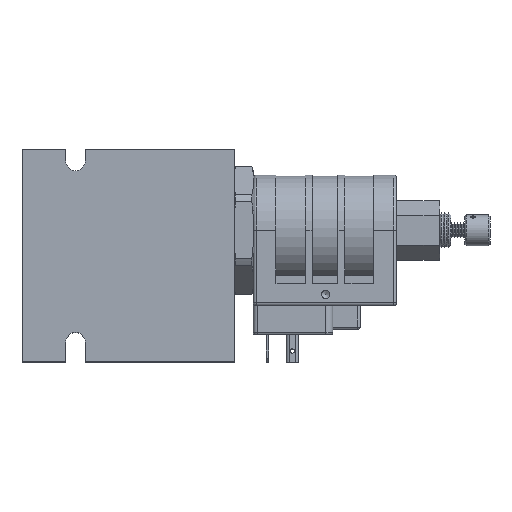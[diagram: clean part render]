
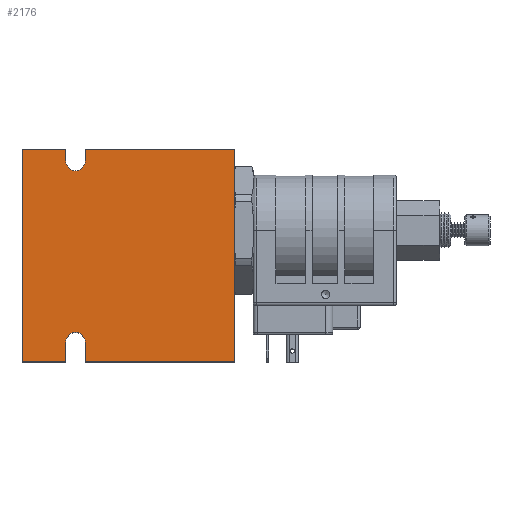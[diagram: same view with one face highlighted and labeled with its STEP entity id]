
A CAD part, top view. The second image highlights one B-rep face of the part: STEP entity #2176.
In plain terms, the highlighted planar face has unit normal (0, 0, 1).
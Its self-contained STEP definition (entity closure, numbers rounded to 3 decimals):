
#2176 = ADVANCED_FACE( '', ( #4497 ), #4498, .F. );
#4497 = FACE_OUTER_BOUND( '', #7019, .T. );
#4498 = PLANE( '', #7020 );
#7019 = EDGE_LOOP( '', ( #12656, #12657, #12658, #12659, #12660, #12661, #12662, #12663, #12664, #12665, #12666, #12667 ) );
#7020 = AXIS2_PLACEMENT_3D( '', #12668, #12669, #12670 );
#12656 = ORIENTED_EDGE( '', *, *, #15460, .F. );
#12657 = ORIENTED_EDGE( '', *, *, #14560, .F. );
#12658 = ORIENTED_EDGE( '', *, *, #14742, .F. );
#12659 = ORIENTED_EDGE( '', *, *, #16280, .F. );
#12660 = ORIENTED_EDGE( '', *, *, #15710, .F. );
#12661 = ORIENTED_EDGE( '', *, *, #16114, .F. );
#12662 = ORIENTED_EDGE( '', *, *, #14536, .F. );
#12663 = ORIENTED_EDGE( '', *, *, #15053, .T. );
#12664 = ORIENTED_EDGE( '', *, *, #16281, .T. );
#12665 = ORIENTED_EDGE( '', *, *, #16282, .T. );
#12666 = ORIENTED_EDGE( '', *, *, #16205, .F. );
#12667 = ORIENTED_EDGE( '', *, *, #14960, .F. );
#12668 = CARTESIAN_POINT( '', ( 0., 0., 50.8 ) );
#12669 = DIRECTION( '', ( 0., 0., -1. ) );
#12670 = DIRECTION( '', ( -1., 0., 0. ) );
#14536 = EDGE_CURVE( '', #17159, #17161, #17162, .T. );
#14560 = EDGE_CURVE( '', #17199, #17201, #17202, .T. );
#14742 = EDGE_CURVE( '', #17513, #17199, #17515, .T. );
#14960 = EDGE_CURVE( '', #17895, #17897, #17898, .T. );
#15053 = EDGE_CURVE( '', #17159, #18054, #18056, .T. );
#15460 = EDGE_CURVE( '', #17201, #17895, #18654, .T. );
#15710 = EDGE_CURVE( '', #19004, #19000, #19006, .T. );
#16114 = EDGE_CURVE( '', #17161, #19004, #19535, .T. );
#16205 = EDGE_CURVE( '', #17897, #19647, #19648, .T. );
#16280 = EDGE_CURVE( '', #19000, #17513, #19739, .T. );
#16281 = EDGE_CURVE( '', #18054, #19740, #19741, .T. );
#16282 = EDGE_CURVE( '', #19740, #19647, #19742, .T. );
#17159 = VERTEX_POINT( '', #21270 );
#17161 = VERTEX_POINT( '', #21273 );
#17162 = LINE( '', #21274, #21275 );
#17199 = VERTEX_POINT( '', #21357 );
#17201 = VERTEX_POINT( '', #21360 );
#17202 = LINE( '', #21361, #21362 );
#17513 = VERTEX_POINT( '', #21948 );
#17515 = CIRCLE( '', #21951, 3.5 );
#17895 = VERTEX_POINT( '', #22800 );
#17897 = VERTEX_POINT( '', #22803 );
#17898 = LINE( '', #22804, #22805 );
#18054 = VERTEX_POINT( '', #23118 );
#18056 = LINE( '', #23121, #23122 );
#18654 = LINE( '', #24363, #24364 );
#19000 = VERTEX_POINT( '', #25056 );
#19004 = VERTEX_POINT( '', #25062 );
#19006 = LINE( '', #25065, #25066 );
#19535 = LINE( '', #26451, #26452 );
#19647 = VERTEX_POINT( '', #26686 );
#19648 = LINE( '', #26687, #26688 );
#19739 = LINE( '', #26886, #26887 );
#19740 = VERTEX_POINT( '', #26888 );
#19741 = CIRCLE( '', #26889, 3.5 );
#19742 = LINE( '', #26890, #26891 );
#21270 = CARTESIAN_POINT( '', ( -15.4, 38.1, 50.8 ) );
#21273 = CARTESIAN_POINT( '', ( 38.1, 38.1, 50.8 ) );
#21274 = CARTESIAN_POINT( '', ( -38.1, 38.1, 50.8 ) );
#21275 = VECTOR( '', #27669, 1000. );
#21357 = CARTESIAN_POINT( '', ( -22.4, -31., 50.8 ) );
#21360 = CARTESIAN_POINT( '', ( -22.4, -38.1, 50.8 ) );
#21361 = CARTESIAN_POINT( '', ( -22.4, -31., 50.8 ) );
#21362 = VECTOR( '', #27705, 1000. );
#21948 = CARTESIAN_POINT( '', ( -15.4, -31., 50.8 ) );
#21951 = AXIS2_PLACEMENT_3D( '', #27864, #27865, #27866 );
#22800 = CARTESIAN_POINT( '', ( -38.1, -38.1, 50.8 ) );
#22803 = CARTESIAN_POINT( '', ( -38.1, 38.1, 50.8 ) );
#22804 = CARTESIAN_POINT( '', ( -38.1, -38.1, 50.8 ) );
#22805 = VECTOR( '', #28022, 1000. );
#23118 = CARTESIAN_POINT( '', ( -15.4, 34., 50.8 ) );
#23121 = CARTESIAN_POINT( '', ( -15.4, 34., 50.8 ) );
#23122 = VECTOR( '', #28093, 1000. );
#24363 = CARTESIAN_POINT( '', ( 38.1, -38.1, 50.8 ) );
#24364 = VECTOR( '', #28483, 1000. );
#25056 = CARTESIAN_POINT( '', ( -15.4, -38.1, 50.8 ) );
#25062 = CARTESIAN_POINT( '', ( 38.1, -38.1, 50.8 ) );
#25065 = CARTESIAN_POINT( '', ( 38.1, -38.1, 50.8 ) );
#25066 = VECTOR( '', #28687, 1000. );
#26451 = CARTESIAN_POINT( '', ( 38.1, 38.1, 50.8 ) );
#26452 = VECTOR( '', #29017, 1000. );
#26686 = CARTESIAN_POINT( '', ( -22.4, 38.1, 50.8 ) );
#26687 = CARTESIAN_POINT( '', ( -38.1, 38.1, 50.8 ) );
#26688 = VECTOR( '', #29056, 1000. );
#26886 = CARTESIAN_POINT( '', ( -15.4, -31., 50.8 ) );
#26887 = VECTOR( '', #29106, 1000. );
#26888 = CARTESIAN_POINT( '', ( -22.4, 34., 50.8 ) );
#26889 = AXIS2_PLACEMENT_3D( '', #29107, #29108, #29109 );
#26890 = CARTESIAN_POINT( '', ( -22.4, 34., 50.8 ) );
#26891 = VECTOR( '', #29110, 1000. );
#27669 = DIRECTION( '', ( 1., 0., 0. ) );
#27705 = DIRECTION( '', ( 0., -1., 0. ) );
#27864 = CARTESIAN_POINT( '', ( -18.9, -31., 50.8 ) );
#27865 = DIRECTION( '', ( 0., 0., 1. ) );
#27866 = DIRECTION( '', ( 1., 0., 0. ) );
#28022 = DIRECTION( '', ( 0., 1., 0. ) );
#28093 = DIRECTION( '', ( 0., -1., 0. ) );
#28483 = DIRECTION( '', ( -1., 0., 0. ) );
#28687 = DIRECTION( '', ( -1., 0., 0. ) );
#29017 = DIRECTION( '', ( 0., -1., 0. ) );
#29056 = DIRECTION( '', ( 1., 0., 0. ) );
#29106 = DIRECTION( '', ( 0., 1., 0. ) );
#29107 = CARTESIAN_POINT( '', ( -18.9, 34., 50.8 ) );
#29108 = DIRECTION( '', ( 0., 0., -1. ) );
#29109 = DIRECTION( '', ( 1., 0., 0. ) );
#29110 = DIRECTION( '', ( 0., 1., 0. ) );
